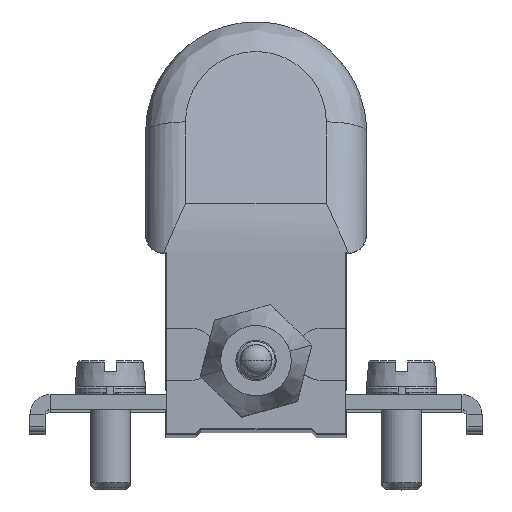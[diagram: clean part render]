
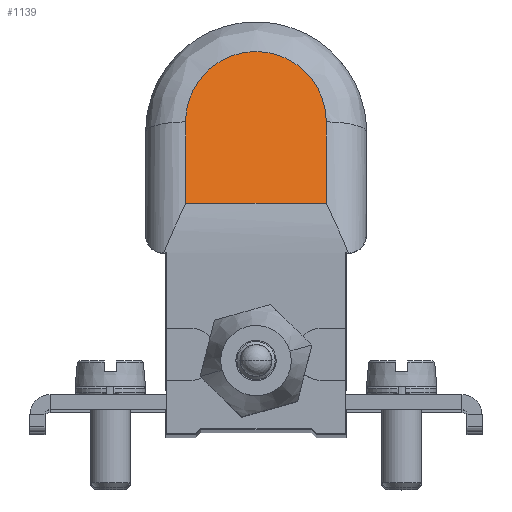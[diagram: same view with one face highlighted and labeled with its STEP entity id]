
A CAD part, top view. The second image highlights one B-rep face of the part: STEP entity #1139.
In plain terms, the highlighted planar face has unit normal (0, 0.259, 0.966).
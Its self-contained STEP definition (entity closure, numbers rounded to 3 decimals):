
#1139=ADVANCED_FACE('',(#2485),#2486,.F.);
#2485=FACE_OUTER_BOUND('',#4127,.T.);
#2486=PLANE('',#4128);
#4127=EDGE_LOOP('',(#7427,#7428,#7429,#7430));
#4128=AXIS2_PLACEMENT_3D('',#7431,#7432,#7433);
#7427=ORIENTED_EDGE('',*,*,#10390,.T.);
#7428=ORIENTED_EDGE('',*,*,#10375,.T.);
#7429=ORIENTED_EDGE('',*,*,#10379,.T.);
#7430=ORIENTED_EDGE('',*,*,#10386,.T.);
#7431=CARTESIAN_POINT('',(-2.001,46.024,-2.812));
#7432=DIRECTION('',(0.0,-0.259,-0.966));
#7433=DIRECTION('',(0.0,-0.966,0.259));
#10375=EDGE_CURVE('',#12675,#12673,#12676,.T.);
#10379=EDGE_CURVE('',#12673,#12681,#12682,.T.);
#10386=EDGE_CURVE('',#12681,#12692,#12694,.T.);
#10390=EDGE_CURVE('',#12692,#12675,#12699,.T.);
#12673=VERTEX_POINT('',#16298);
#12675=VERTEX_POINT('',#16303);
#12676=LINE('',#16304,#16305);
#12681=VERTEX_POINT('',#16314);
#12682=LINE('',#16315,#16316);
#12692=VERTEX_POINT('',#16336);
#12694=B_SPLINE_CURVE_WITH_KNOTS('',3,(#16338,#16339,#16340,#16341,#16342,#16343,#16344,#16345,#16346,#16347,#16348,#16349,#16350,#16351,#16352,#16353,#16354,#16355,#16356,#16357,#16358,#16359,#16360,#16361,#16362),.UNSPECIFIED.,.F.,.F.,(4,3,3,3,3,3,3,3,4),(1.571,1.963,2.356,2.749,3.142,3.534,3.927,4.32,4.712),.UNSPECIFIED.);
#12699=LINE('',#16384,#16385);
#16298=CARTESIAN_POINT('',(16.0,23.016,3.353));
#16303=CARTESIAN_POINT('',(2.0,23.016,3.353));
#16304=CARTESIAN_POINT('',(2.0,23.016,3.353));
#16305=VECTOR('',#19033,14.0);
#16314=CARTESIAN_POINT('',(16.0,31.135,1.177));
#16315=CARTESIAN_POINT('',(16.0,23.016,3.353));
#16316=VECTOR('',#19035,8.406);
#16336=CARTESIAN_POINT('',(2.0,31.135,1.177));
#16338=CARTESIAN_POINT('',(16.0,31.135,1.177));
#16339=CARTESIAN_POINT('',(16.,32.052,0.932));
#16340=CARTESIAN_POINT('',(15.818,32.968,0.686));
#16341=CARTESIAN_POINT('',(15.467,33.814,0.459));
#16342=CARTESIAN_POINT('',(15.117,34.661,0.232));
#16343=CARTESIAN_POINT('',(14.598,35.437,0.024));
#16344=CARTESIAN_POINT('',(13.95,36.085,-0.149));
#16345=CARTESIAN_POINT('',(13.302,36.733,-0.323));
#16346=CARTESIAN_POINT('',(12.525,37.252,-0.462));
#16347=CARTESIAN_POINT('',(11.679,37.602,-0.556));
#16348=CARTESIAN_POINT('',(10.832,37.953,-0.65));
#16349=CARTESIAN_POINT('',(9.916,38.135,-0.699));
#16350=CARTESIAN_POINT('',(9.0,38.135,-0.699));
#16351=CARTESIAN_POINT('',(8.084,38.135,-0.699));
#16352=CARTESIAN_POINT('',(7.168,37.953,-0.65));
#16353=CARTESIAN_POINT('',(6.321,37.602,-0.556));
#16354=CARTESIAN_POINT('',(5.475,37.252,-0.462));
#16355=CARTESIAN_POINT('',(4.698,36.733,-0.323));
#16356=CARTESIAN_POINT('',(4.05,36.085,-0.149));
#16357=CARTESIAN_POINT('',(3.402,35.437,0.024));
#16358=CARTESIAN_POINT('',(2.883,34.661,0.232));
#16359=CARTESIAN_POINT('',(2.533,33.814,0.459));
#16360=CARTESIAN_POINT('',(2.182,32.968,0.686));
#16361=CARTESIAN_POINT('',(2.,32.052,0.932));
#16362=CARTESIAN_POINT('',(2.0,31.135,1.177));
#16384=CARTESIAN_POINT('',(2.0,31.135,1.177));
#16385=VECTOR('',#19049,8.406);
#19033=DIRECTION('',(1.0,0.0,0.0));
#19035=DIRECTION('',(0.0,0.966,-0.259));
#19049=DIRECTION('',(0.0,-0.966,0.259));
